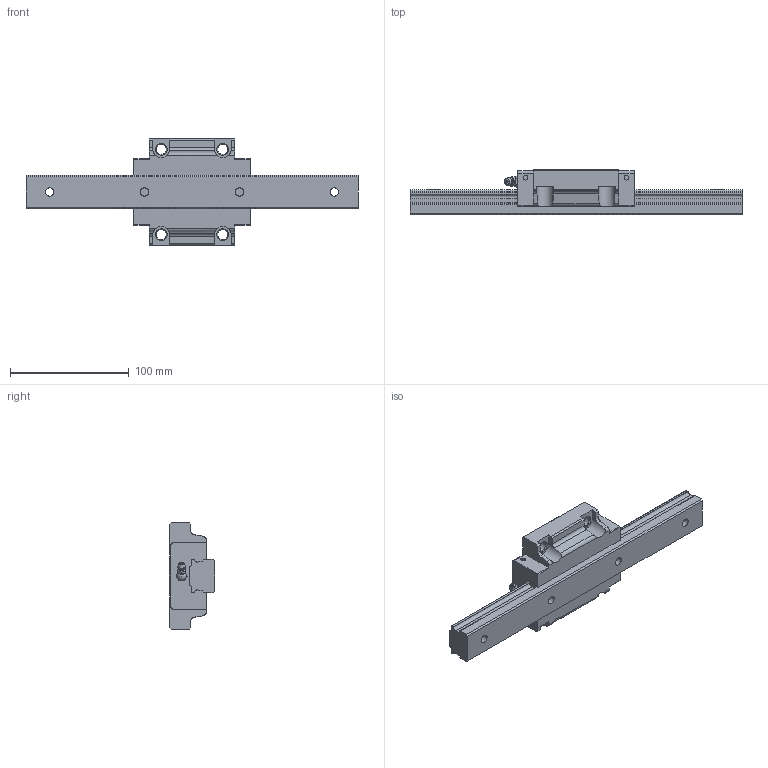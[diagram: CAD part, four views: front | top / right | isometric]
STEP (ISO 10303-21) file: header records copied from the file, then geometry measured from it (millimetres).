
FILE_DESCRIPTION(/* description */ ('STEP AP203'),/* implementation_level */ '2;1');
FILE_NAME(/* name */ 'SVR30C1SS-280L_G20_0_B-M6F_91_0_0_0_1',/* time_stamp */ '2024-05-17T07:22:48+02:00',/* author */ ('License CC BY-ND 4.0'),/* organization */ ('CADENAS'),/* preprocessor_version */ 'ST-DEVELOPER v19.3',/* originating_system */ 'PARTsolutions',/* authorisation */ ' ');
FILE_SCHEMA (('CONFIG_CONTROL_DESIGN'));
Length unit declared in the file: millimetre
Products named in the file (4): SVR30C1SS-280L_G20_0_B-M6F_91_0_0_0_1; SVR 30C28020 R Track; SVR 30C1SSB-M6F1 Slide; B-M6F_grease_nipple_joint1_SVR
Assembly tree (3 placements, depth 2):
  SVR30C1SS-280L_G20_0_B-M6F_91_0_0_0_1
    SVR 30C28020 R Track
    SVR 30C1SSB-M6F1 Slide
    B-M6F_grease_nipple_joint1_SVR
Bounding box: 280 x 38 x 90 mm (x, y, z)
Volume: 326090.9 mm3; surface area: 62059.7 mm2
Topology: 3 solids, 3 shells, 218 faces, 588 edges, 385 vertices
Faces by surface type: plane 120, cylinder 72, cone 21, sphere 3, torus 2
Full cylindrical faces by diameter (mm): 3.9 x4, 4.917 x2, 6 x1, 7 x4, 8 x1, 8.5 x4, 11 x4
Entity records: 6781 total; most frequent: CARTESIAN_POINT 1309, DIRECTION 1116, ORIENTED_EDGE 1076, EDGE_CURVE 538, AXIS2_PLACEMENT_3D 396, VERTEX_POINT 377, LINE 324, VECTOR 324
